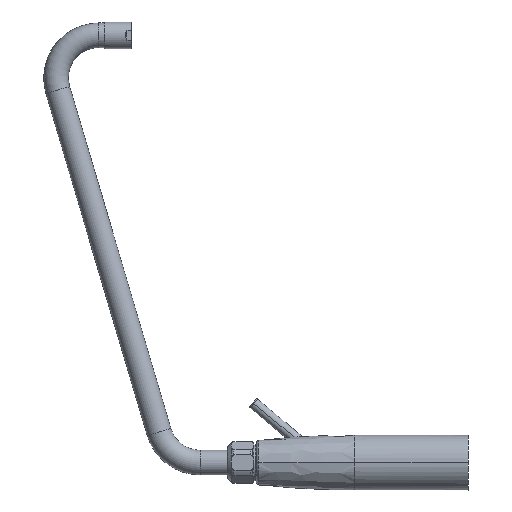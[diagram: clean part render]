
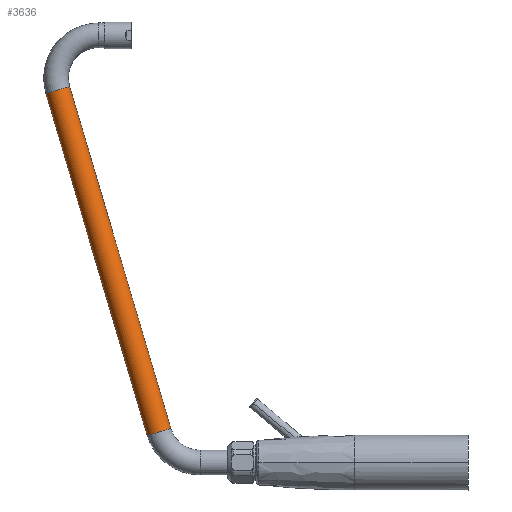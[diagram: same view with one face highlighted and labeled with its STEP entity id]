
A CAD part, left-side view. The second image highlights one B-rep face of the part: STEP entity #3636.
In plain terms, the highlighted cylindrical face has radius 13 mm (diameter 26 mm), a partial arc.
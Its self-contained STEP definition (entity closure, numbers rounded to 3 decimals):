
#968=CARTESIAN_POINT('',(0.,226.147,32.219));
#969=DIRECTION('',(0.,0.284,0.959));
#970=DIRECTION('',(0.,0.959,-0.284));
#971=AXIS2_PLACEMENT_3D('',#968,#969,#970);
#973=DIRECTION('',(0.,0.284,0.959));
#974=VECTOR('',#973,375.5);
#975=CARTESIAN_POINT('',(0.,238.612,28.527));
#976=LINE('',#975,#974);
#982=DIRECTION('',(0.,0.284,0.959));
#983=VECTOR('',#982,375.5);
#984=CARTESIAN_POINT('',(0.,213.682,35.912));
#985=LINE('',#984,#983);
#996=CARTESIAN_POINT('',(0.,332.795,392.256));
#997=DIRECTION('',(0.,0.284,0.959));
#998=DIRECTION('',(0.,0.959,-0.284));
#999=AXIS2_PLACEMENT_3D('',#996,#997,#998);
#2445=CARTESIAN_POINT('',(0.,238.612,28.527));
#2446=CARTESIAN_POINT('',(0.,213.682,35.912));
#2447=VERTEX_POINT('',#2445);
#2448=VERTEX_POINT('',#2446);
#2449=CARTESIAN_POINT('',(0.,345.259,
388.564));
#2450=CARTESIAN_POINT('',(0.,320.33,395.948));
#2451=VERTEX_POINT('',#2449);
#2452=VERTEX_POINT('',#2450);
#3622=CARTESIAN_POINT('',(0.,226.147,32.219));
#3623=DIRECTION('',(0.,0.284,0.959));
#3624=DIRECTION('',(0.,0.959,-0.284));
#3625=AXIS2_PLACEMENT_3D('',#3622,#3623,#3624);
#3626=CYLINDRICAL_SURFACE('',#3625,13.);
#3627=ORIENTED_EDGE('',*,*,#3604,.F.);
#3629=ORIENTED_EDGE('',*,*,#3628,.T.);
#3631=ORIENTED_EDGE('',*,*,#3630,.T.);
#3633=ORIENTED_EDGE('',*,*,#3632,.F.);
#3634=EDGE_LOOP('',(#3627,#3629,#3631,#3633));
#3635=FACE_OUTER_BOUND('',#3634,.F.);
#972=CIRCLE('',#971,13.);
#1000=CIRCLE('',#999,13.);
#3604=EDGE_CURVE('',#2447,#2448,#972,.T.);
#3628=EDGE_CURVE('',#2447,#2451,#976,.T.);
#3630=EDGE_CURVE('',#2451,#2452,#1000,.T.);
#3632=EDGE_CURVE('',#2448,#2452,#985,.T.);
#3636=ADVANCED_FACE('',(#3635),#3626,.T.);
